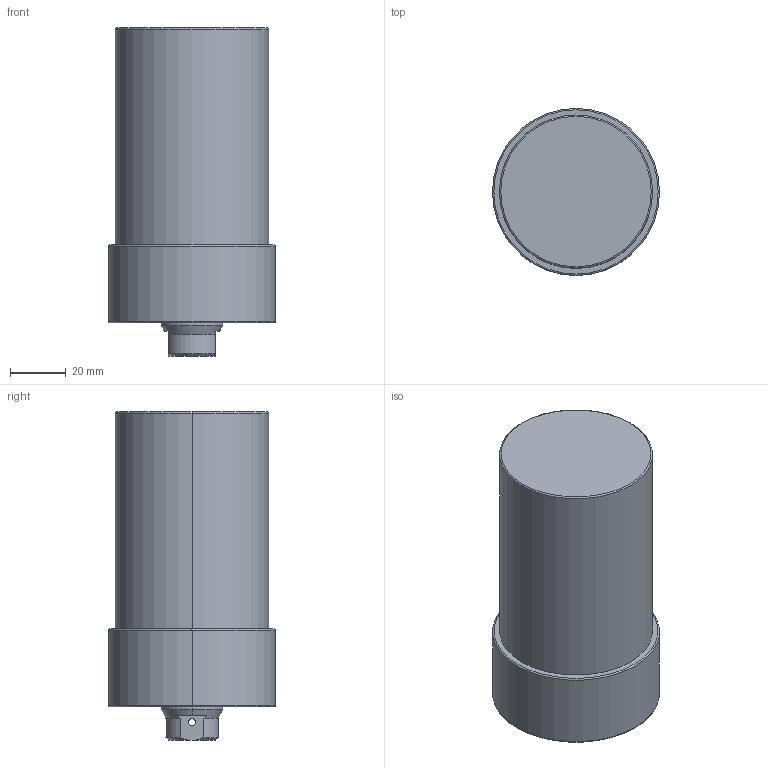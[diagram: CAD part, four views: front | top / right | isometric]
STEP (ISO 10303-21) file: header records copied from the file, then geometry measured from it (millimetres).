
FILE_DESCRIPTION (( 'STEP AP203' ), '1' );
FILE_NAME ('CLLU055-CB-065.STEP', '2017-05-12T11:25:09', ( '' ), ( '' ), 'SwSTEP 2.0', 'SolidWorks 2015', '' );
FILE_SCHEMA (( 'CONFIG_CONTROL_DESIGN' ));
Length unit declared in the file: millimetre
Products named in the file (1): CLLU055-CB-065
Bounding box: 60 x 60 x 118 mm (x, y, z)
Volume: 264773.5 mm3; surface area: 26848.6 mm2
Topology: 1 solids, 1 shells, 66 faces, 152 edges, 85 vertices
Faces by surface type: cylinder 26, cone 24, plane 10, torus 6
Entity records: 1971 total; most frequent: CARTESIAN_POINT 414, DIRECTION 340, ORIENTED_EDGE 284, AXIS2_PLACEMENT_3D 143, EDGE_CURVE 142, VERTEX_POINT 85, EDGE_LOOP 77, CIRCLE 76
